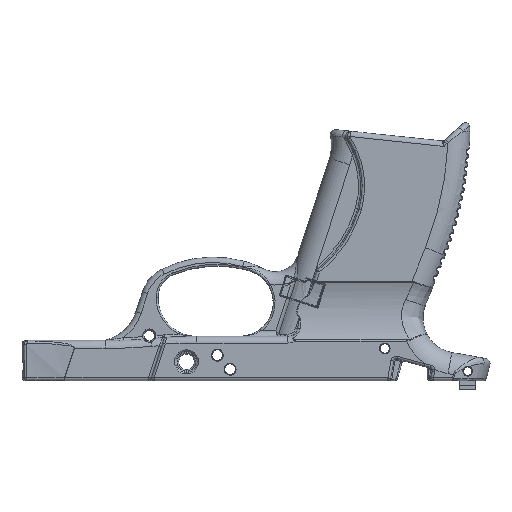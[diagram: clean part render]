
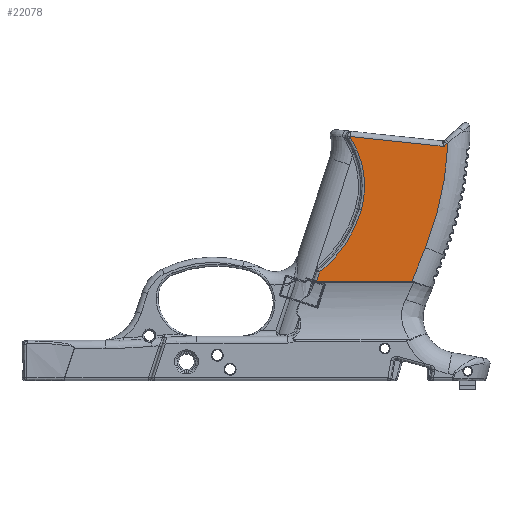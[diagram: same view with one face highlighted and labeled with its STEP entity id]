
A CAD part, front view. The second image highlights one B-rep face of the part: STEP entity #22078.
In plain terms, the highlighted planar face has unit normal (0, -1, 0).
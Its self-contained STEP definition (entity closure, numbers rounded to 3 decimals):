
#880=B_SPLINE_CURVE_WITH_KNOTS('',3,(#43940,#43941,#43942,#43943),
 .UNSPECIFIED.,.F.,.F.,(4,4),(0.,0.039),.UNSPECIFIED.);
#881=B_SPLINE_CURVE_WITH_KNOTS('',3,(#43945,#43946,#43947,#43948),
 .UNSPECIFIED.,.F.,.F.,(4,4),(-1.153,-0.627),
 .UNSPECIFIED.);
#1610=PLANE('',#24097);
#2283=LINE('',#40081,#3369);
#2463=LINE('',#43904,#3549);
#2466=LINE('',#43929,#3552);
#2467=LINE('',#43932,#3553);
#2468=LINE('',#43934,#3554);
#2469=LINE('',#43938,#3555);
#3369=VECTOR('',#27430,10.);
#3549=VECTOR('',#28394,10.);
#3552=VECTOR('',#28409,10.);
#3553=VECTOR('',#28414,10.);
#3554=VECTOR('',#28415,10.);
#3555=VECTOR('',#28418,10.);
#5207=FACE_OUTER_BOUND('',#6702,.T.);
#6702=EDGE_LOOP('',(#17387,#17388,#17389,#17390,#17391,#17392,#17393,#17394,
#17395,#17396,#17397,#17398));
#7959=CIRCLE('',#23616,120.212);
#8199=CIRCLE('',#24098,8.5);
#8200=CIRCLE('',#24099,32.518);
#8201=CIRCLE('',#24100,45.518);
#9650=VERTEX_POINT('',#38637);
#9651=VERTEX_POINT('',#38643);
#9727=VERTEX_POINT('',#40080);
#10040=VERTEX_POINT('',#43854);
#10041=VERTEX_POINT('',#43877);
#10048=VERTEX_POINT('',#43928);
#10049=VERTEX_POINT('',#43933);
#10050=VERTEX_POINT('',#43935);
#10051=VERTEX_POINT('',#43937);
#10052=VERTEX_POINT('',#43939);
#10053=VERTEX_POINT('',#43944);
#10054=VERTEX_POINT('',#43949);
#11938=EDGE_CURVE('',#9650,#9651,#7959,.T.);
#12073=EDGE_CURVE('',#9651,#9727,#2283,.T.);
#12611=EDGE_CURVE('',#10041,#10040,#2463,.T.);
#12619=EDGE_CURVE('',#10040,#10048,#2466,.T.);
#12621=EDGE_CURVE('',#9727,#10041,#2467,.T.);
#12622=EDGE_CURVE('',#10049,#9650,#2468,.T.);
#12623=EDGE_CURVE('',#10050,#10049,#8199,.T.);
#12624=EDGE_CURVE('',#10051,#10050,#2469,.T.);
#12625=EDGE_CURVE('',#10052,#10051,#880,.T.);
#12626=EDGE_CURVE('',#10053,#10052,#881,.T.);
#12627=EDGE_CURVE('',#10054,#10053,#8200,.T.);
#12628=EDGE_CURVE('',#10048,#10054,#8201,.T.);
#17387=ORIENTED_EDGE('',*,*,#12611,.F.);
#17388=ORIENTED_EDGE('',*,*,#12621,.F.);
#17389=ORIENTED_EDGE('',*,*,#12073,.F.);
#17390=ORIENTED_EDGE('',*,*,#11938,.F.);
#17391=ORIENTED_EDGE('',*,*,#12622,.F.);
#17392=ORIENTED_EDGE('',*,*,#12623,.F.);
#17393=ORIENTED_EDGE('',*,*,#12624,.F.);
#17394=ORIENTED_EDGE('',*,*,#12625,.F.);
#17395=ORIENTED_EDGE('',*,*,#12626,.F.);
#17396=ORIENTED_EDGE('',*,*,#12627,.F.);
#17397=ORIENTED_EDGE('',*,*,#12628,.F.);
#17398=ORIENTED_EDGE('',*,*,#12619,.F.);
#22078=ADVANCED_FACE('',(#5207),#1610,.T.);
#23616=AXIS2_PLACEMENT_3D('',#38644,#27230,#27231);
#24097=AXIS2_PLACEMENT_3D('',#43931,#28412,#28413);
#24098=AXIS2_PLACEMENT_3D('',#43936,#28416,#28417);
#24099=AXIS2_PLACEMENT_3D('',#43950,#28419,#28420);
#24100=AXIS2_PLACEMENT_3D('',#43951,#28421,#28422);
#27230=DIRECTION('center_axis',(0.,1.,0.));
#27231=DIRECTION('ref_axis',(0.981,0.,-0.194));
#27430=DIRECTION('',(-0.371,0.,-0.929));
#28394=DIRECTION('',(-0.952,0.,0.306));
#28409=DIRECTION('',(0.309,0.,0.951));
#28412=DIRECTION('center_axis',(0.,-1.,0.));
#28413=DIRECTION('ref_axis',(1.,0.,0.));
#28414=DIRECTION('',(-1.,0.,0.));
#28415=DIRECTION('',(0.741,0.,0.672));
#28416=DIRECTION('center_axis',(0.,1.,0.));
#28417=DIRECTION('ref_axis',(-0.758,0.,0.652));
#28418=DIRECTION('',(0.995,0.,-0.105));
#28419=DIRECTION('center_axis',(0.,-1.,0.));
#28420=DIRECTION('ref_axis',(0.997,0.,0.072));
#28421=DIRECTION('center_axis',(0.,-1.,0.));
#28422=DIRECTION('ref_axis',(0.835,0.,-0.551));
#38637=CARTESIAN_POINT('',(83.026,-13.75,48.883));
#38643=CARTESIAN_POINT('',(74.571,-13.75,9.633));
#38644=CARTESIAN_POINT('Origin',(-37.068,-13.75,54.219));
#40080=CARTESIAN_POINT('',(69.538,-13.75,-2.968));
#40081=CARTESIAN_POINT('',(76.221,-13.75,13.765));
#43854=CARTESIAN_POINT('',(33.966,-13.75,-2.917));
#43877=CARTESIAN_POINT('',(34.126,-13.75,-2.968));
#43904=CARTESIAN_POINT('',(38.447,-13.75,-4.356));
#43928=CARTESIAN_POINT('',(35.084,-13.75,0.524));
#43929=CARTESIAN_POINT('',(35.776,-13.75,2.654));
#43931=CARTESIAN_POINT('Origin',(59.201,-13.75,25.354));
#43932=CARTESIAN_POINT('',(110.,-13.75,-2.968));
#43933=CARTESIAN_POINT('',(82.421,-13.75,48.334));
#43934=CARTESIAN_POINT('',(69.981,-13.75,37.054));
#43935=CARTESIAN_POINT('',(81.522,-13.75,47.383));
#43936=CARTESIAN_POINT('Origin',(88.13,-13.75,42.037));
#43937=CARTESIAN_POINT('',(46.455,-13.75,51.069));
#43938=CARTESIAN_POINT('',(49.586,-13.75,50.74));
#43939=CARTESIAN_POINT('',(46.545,-13.75,50.692));
#43940=CARTESIAN_POINT('Ctrl Pts',(46.545,-13.75,50.692));
#43941=CARTESIAN_POINT('Ctrl Pts',(46.477,-13.75,50.805));
#43942=CARTESIAN_POINT('Ctrl Pts',(46.441,-13.75,50.938));
#43943=CARTESIAN_POINT('Ctrl Pts',(46.455,-13.75,51.069));
#43944=CARTESIAN_POINT('',(48.99,-13.75,46.038));
#43945=CARTESIAN_POINT('Ctrl Pts',(48.99,-13.75,46.038));
#43946=CARTESIAN_POINT('Ctrl Pts',(48.267,-13.75,47.636));
#43947=CARTESIAN_POINT('Ctrl Pts',(47.451,-13.75,49.191));
#43948=CARTESIAN_POINT('Ctrl Pts',(46.545,-13.75,50.692));
#43949=CARTESIAN_POINT('',(50.603,-13.75,23.613));
#43950=CARTESIAN_POINT('Origin',(19.362,-13.75,32.637));
#43951=CARTESIAN_POINT('Origin',(6.873,-13.75,36.245));
